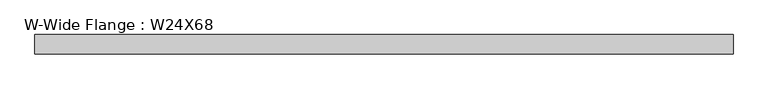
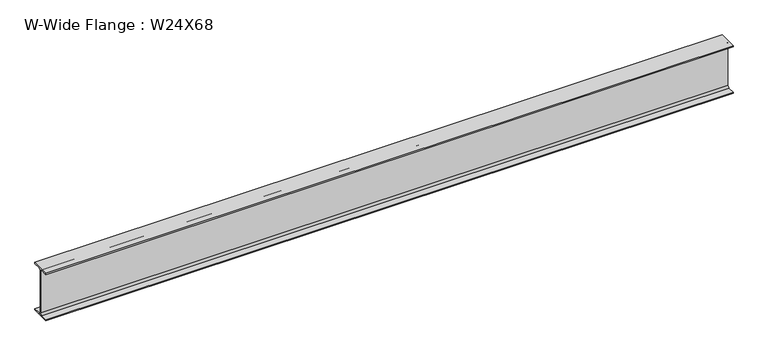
"""IFC4 building model written with IfcOpenShell, lengths in millimetres: beam geometry, W-Wide Flange : W24X68."""

import ifcopenshell
import ifcopenshell.guid

model = None  # the IFC model being written
_history = None  # IfcOwnerHistory: only IFC2X3 demands one
_inside = {}  # id of a spatial element -> (the spatial element, [elements in it])
_under = {}  # id of a project, library or spatial element -> (it, [spatial elements below it])
_declared = {}  # id of a project -> (the project, [libraries it declares])
_typed = {}  # id of a type object -> (the type object, [elements of that type])
_made_of = {}  # id of a material, layer set ... -> (it, [elements and type objects made of it])


def new_model(schema):
    """Start an empty IFC model of exactly this schema.

    Asked for "IFC4X3", IfcOpenShell would pick the latest addendum, in which some entities
    have other attributes; the version numbers below select the first issue.
    IFC2X3 requires an IfcOwnerHistory on every rooted entity: one is made here for all.
    """
    global model, _history
    if schema == "IFC4X3":
        model = ifcopenshell.file(schema_version=(4, 3, 0, 0))
    else:
        model = ifcopenshell.file(schema=schema)
    _inside.clear()
    _under.clear()
    _declared.clear()
    _typed.clear()
    _made_of.clear()
    _history = None
    if model.schema == "IFC2X3":
        org = make("IfcOrganization", Name="unknown")
        user = make(
            "IfcPersonAndOrganization",
            ThePerson=make("IfcPerson", FamilyName="unknown"),
            TheOrganization=org,
        )
        app = make(
            "IfcApplication",
            ApplicationDeveloper=org,
            Version="unknown",
            ApplicationFullName="unknown",
            ApplicationIdentifier="unknown",
        )
        _history = make(
            "IfcOwnerHistory",
            OwningUser=user,
            OwningApplication=app,
            ChangeAction="ADDED",
            CreationDate=0,
        )
    return model


def make(cls, **values):
    """One entity of the class cls with the attributes given. An attribute that is None is left unset."""
    return model.create_entity(
        cls, **{name: value for name, value in values.items() if value is not None}
    )


def rooted(cls, **values):
    """An entity with a GlobalId (a new one), such as an element, a storey or a relation."""
    return make(cls, GlobalId=ifcopenshell.guid.new(), OwnerHistory=_history, **values)


def si_unit(unit_type, name, prefix=None):
    """IfcSIUnit, for example si_unit("LENGTHUNIT", "METRE", prefix="MILLI")."""
    return make("IfcSIUnit", UnitType=unit_type, Prefix=prefix, Name=name)


def assignment(units):
    """IfcUnitAssignment: the units of a project."""
    return None if units is None else make("IfcUnitAssignment", Units=units)


def point(xyz):
    """IfcCartesianPoint."""
    return None if xyz is None else make("IfcCartesianPoint", Coordinates=xyz)


def direction(xyz):
    """IfcDirection."""
    return None if xyz is None else make("IfcDirection", DirectionRatios=xyz)


def frame(location, z_axis=None, x_axis=None):
    """IfcAxis2Placement3D, a coordinate frame: its origin and axes. An axis left out is left unset."""
    return make(
        "IfcAxis2Placement3D",
        Location=point(location),
        Axis=direction(z_axis),
        RefDirection=direction(x_axis),
    )


def frame_2d(location, x_axis=None):
    """IfcAxis2Placement2D, a coordinate frame in the plane: its origin and x axis."""
    return make(
        "IfcAxis2Placement2D", Location=point(location), RefDirection=direction(x_axis)
    )


def origin():
    """The frame at (0, 0, 0) with its axes left unset."""
    return frame((0.0, 0.0, 0.0))


def place(relative_to, where):
    """IfcLocalPlacement: puts the frame where relative to a parent placement (None: the world)."""
    return make(
        "IfcLocalPlacement", PlacementRelTo=relative_to, RelativePlacement=where
    )


def context(
    kind, dimensions, precision=None, world=None, true_north=None, identifier=None
):
    """IfcGeometricRepresentationContext, for example the 3D "Model" context."""
    return make(
        "IfcGeometricRepresentationContext",
        ContextIdentifier=identifier,
        ContextType=kind,
        CoordinateSpaceDimension=dimensions,
        Precision=precision,
        WorldCoordinateSystem=world,
        TrueNorth=true_north,
    )


def project(units=None, contexts=None):
    """IfcProject with its units and contexts."""
    return rooted(
        "IfcProject",
        Name="project",
        RepresentationContexts=contexts,
        UnitsInContext=assignment(units),
    )


def spatial(cls, under=None, at=None, **own):
    """A site, building, storey or space (cls), placed at a placement, below another one or the project."""
    s = rooted(cls, ObjectPlacement=at, **own)
    if under is not None:
        _under.setdefault(under.id(), (under, []))[1].append(s)
    return s


def polyline(points):
    """IfcPolyline through the points."""
    return make("IfcPolyline", Points=[point(p) for p in points])


def circle_curve(where, radius):
    """IfcCircle in the frame where."""
    return make("IfcCircle", Position=where, Radius=radius)


def trimmed(basis, trim1, trim2, sense, master):
    """IfcTrimmedCurve: the piece of a basis curve between two trims."""
    return make(
        "IfcTrimmedCurve",
        BasisCurve=basis,
        Trim1=trim1,
        Trim2=trim2,
        SenseAgreement=sense,
        MasterRepresentation=master,
    )


def segment(curve, same_sense, transition):
    """IfcCompositeCurveSegment."""
    return make(
        "IfcCompositeCurveSegment",
        Transition=transition,
        SameSense=same_sense,
        ParentCurve=curve,
    )


def composite_curve(segments, self_intersect=None):
    """IfcCompositeCurve: segments joined end to end."""
    return make("IfcCompositeCurve", Segments=segments, SelfIntersect=self_intersect)


def outline(outer, holes=None, kind="AREA"):
    """IfcArbitraryClosedProfileDef: a profile drawn as a closed curve; with holes, ...WithVoids."""
    if holes is None:
        return make("IfcArbitraryClosedProfileDef", ProfileType=kind, OuterCurve=outer)
    return make(
        "IfcArbitraryProfileDefWithVoids",
        ProfileType=kind,
        OuterCurve=outer,
        InnerCurves=holes,
    )


def extrude(swept, where, along, depth):
    """IfcExtrudedAreaSolid: the profile swept, set in the frame where, extruded along a direction by depth."""
    return make(
        "IfcExtrudedAreaSolid",
        SweptArea=swept,
        Position=where,
        ExtrudedDirection=direction(along),
        Depth=depth,
    )


def shape(context_of_items, identifier, shape_type, items):
    """IfcShapeRepresentation: the items that make up one representation, for example the "Body"."""
    return make(
        "IfcShapeRepresentation",
        ContextOfItems=context_of_items,
        RepresentationIdentifier=identifier,
        RepresentationType=shape_type,
        Items=items,
    )


def source(mapping_origin, context_of_items, identifier, shape_type, items):
    """IfcRepresentationMap: a shape defined once, which mapped items show again and again."""
    return make(
        "IfcRepresentationMap",
        MappingOrigin=mapping_origin,
        MappedRepresentation=shape(context_of_items, identifier, shape_type, items),
    )


def transform(
    local_origin,
    x_axis=None,
    y_axis=None,
    z_axis=None,
    scale=None,
    scale2=None,
    scale3=None,
    uniform=True,
):
    """IfcCartesianTransformationOperator3D, or its non-uniform kind. x_axis, y_axis, z_axis: its Axis1, 2, 3."""
    if uniform:
        return make(
            "IfcCartesianTransformationOperator3D",
            Axis1=direction(x_axis),
            Axis2=direction(y_axis),
            LocalOrigin=point(local_origin),
            Scale=scale,
            Axis3=direction(z_axis),
        )
    return make(
        "IfcCartesianTransformationOperator3DnonUniform",
        Axis1=direction(x_axis),
        Axis2=direction(y_axis),
        LocalOrigin=point(local_origin),
        Scale=scale,
        Axis3=direction(z_axis),
        Scale2=scale2,
        Scale3=scale3,
    )


def mapped(mapping_source, mapping_target):
    """IfcMappedItem: shows the shape of a source again, moved by a transform."""
    return make(
        "IfcMappedItem", MappingSource=mapping_source, MappingTarget=mapping_target
    )


def made_of(thing, what):
    """Note that an element or type object is made of a material, layer set ...; save() writes the relation."""
    if what is not None:
        _made_of.setdefault(what.id(), (what, []))[1].append(thing)
    return thing


def element(
    cls,
    number,
    at=None,
    inside=None,
    cuts=None,
    type_object=None,
    material=None,
    context=None,
    identifier="Body",
    shape_type=None,
    held_by="IfcProductDefinitionShape",
    body=None,
    shapes=None,
    **own,
):
    """One element of the class cls, such as IfcWall. Its Tag is "e" and its number.

    at: its placement. inside: the storey or other place that contains it. cuts: it is an
    opening in that element (IfcRelVoidsElement). A single representation is given by context,
    identifier, shape_type and body (its items); several are given by shapes. held_by: the class
    of the entity that holds the representations. save() writes the other relations.
    """
    e = rooted(cls, Tag="e%d" % number, ObjectPlacement=at, **own)
    if body is not None:
        shapes = [shape(context, identifier, shape_type, body)]
    if shapes is not None:
        e.Representation = make(held_by, Representations=shapes)
    if inside is not None:
        _inside.setdefault(inside.id(), (inside, []))[1].append(e)
    if cuts is not None:
        rooted(
            "IfcRelVoidsElement", RelatingBuildingElement=cuts, RelatedOpeningElement=e
        )
    if type_object is not None:
        _typed.setdefault(type_object.id(), (type_object, []))[1].append(e)
    return made_of(e, material)


def aggregate(whole, parts):
    """IfcRelAggregates: a whole, such as a stair, and the parts it consists of."""
    return rooted("IfcRelAggregates", RelatingObject=whole, RelatedObjects=parts)


def save(model, path):
    """Write the relations noted so far, then the file.

    IfcRelAggregates (storeys below a building ...), IfcRelContainedInSpatialStructure (elements
    in a storey), IfcRelDefinesByType, IfcRelAssociatesMaterial and IfcRelDeclares: one each for
    every whole, place, type object, material and project.
    """
    for whole, parts in _under.values():
        aggregate(whole, parts)
    for where, things in _inside.values():
        rooted(
            "IfcRelContainedInSpatialStructure",
            RelatedElements=things,
            RelatingStructure=where,
        )
    for kind, things in _typed.values():
        rooted("IfcRelDefinesByType", RelatedObjects=things, RelatingType=kind)
    for what, things in _made_of.values():
        rooted("IfcRelAssociatesMaterial", RelatedObjects=things, RelatingMaterial=what)
    for by, libraries in _declared.values():
        rooted("IfcRelDeclares", RelatingContext=by, RelatedDefinitions=libraries)
    model.write(path)


def w_wide_flange_w24x68_7e912eba(model_context):
    return source(origin(), model_context, "Body", "SweptSolid", [
        extrude(outline(composite_curve([segment(polyline([(113.919, -286.131), (113.919, -300.99), (-113.919, -300.99), (-113.919, -286.131), (-28.5115, -286.131)]), True, "CONTINUOUS"), segment(trimmed(circle_curve(frame_2d((-28.5115, -262.89)), 23.241), [point((-28.5115, -286.131))], [point((-5.2705, -262.89))], True, "CARTESIAN"), True, "CONTINUOUS"), segment(polyline([(-5.2705, -262.89), (-5.2705, 262.89)]), True, "CONTINUOUS"), segment(trimmed(circle_curve(frame_2d((-28.5115, 262.89)), 23.241), [point((-5.2705, 262.89))], [point((-28.5115, 286.131))], True, "CARTESIAN"), True, "CONTINUOUS"), segment(polyline([(-28.5115, 286.131), (-113.919, 286.131), (-113.919, 300.99), (113.919, 300.99), (113.919, 286.131), (28.5115, 286.131)]), True, "CONTINUOUS"), segment(trimmed(circle_curve(frame_2d((28.5115, 262.89)), 23.241), [point((28.5115, 286.131))], [point((5.2705, 262.89))], True, "CARTESIAN"), True, "CONTINUOUS"), segment(polyline([(5.2705, 262.89), (5.2705, -262.89)]), True, "CONTINUOUS"), segment(trimmed(circle_curve(frame_2d((28.5115, -262.89)), 23.241), [point((5.2705, -262.89))], [point((28.5115, -286.131))], True, "CARTESIAN"), True, "CONTINUOUS"), segment(polyline([(28.5115, -286.131), (113.919, -286.131)]), True, "CONTINUOUS")], self_intersect=False)), frame((-4178.2999994, 0.0, 0.0), z_axis=(1.0, 0.0, 0.0), x_axis=(0.0, 1.0, 0.0)), (0.0, 0.0, 1.0), 8242.6809994),
    ])


if __name__ == "__main__":
    model = new_model("IFC4")
    model_context = context("Model", 3, world=origin())
    ifc_project = project(units=[si_unit("LENGTHUNIT", "METRE", prefix="MILLI")], contexts=[model_context])
    site = spatial("IfcSite", under=ifc_project)
    building = spatial("IfcBuilding", under=site)
    placement = place(None, origin())
    w_wide_flange_w24x68_shape = w_wide_flange_w24x68_7e912eba(model_context)
    element("IfcBeam", 1, ObjectType="W-Wide Flange : W24X68", at=placement, inside=building, context=model_context, shape_type="MappedRepresentation", body=[
        mapped(w_wide_flange_w24x68_shape, transform((0.0, 0.0, 0.0), x_axis=(1.0, 0.0, 0.0), y_axis=(0.0, 1.0, 0.0), z_axis=(0.0, 0.0, 1.0))),
    ])
    save(model, "model.ifc")
